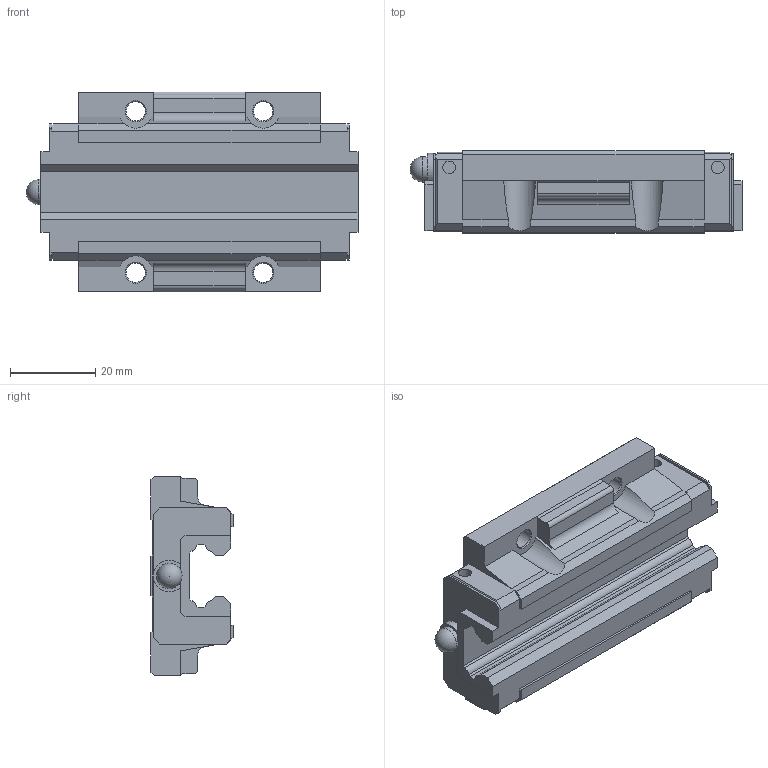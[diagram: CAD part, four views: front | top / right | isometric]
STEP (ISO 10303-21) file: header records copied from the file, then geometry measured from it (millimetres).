
FILE_DESCRIPTION(/* description */ ('STEP AP203'),/* implementation_level */ '2;1');
FILE_NAME(/* name */ 'HSR15LC1SS(GK) BLOCK(1PB1021B)',/* time_stamp */ '2024-05-21T04:58:32+02:00',/* author */ ('License CC BY-ND 4.0'),/* organization */ ('CADENAS'),/* preprocessor_version */ 'ST-DEVELOPER v19.3',/* originating_system */ 'PARTsolutions',/* authorisation */ ' ');
FILE_SCHEMA (('CONFIG_CONTROL_DESIGN'));
Length unit declared in the file: millimetre
Products named in the file (3): HSR15LC1SS(GK) BLOCK(1PB1021B); HSR15LCSSPB1021B11 S; hsr_ftht_PB1021B_grease_nipple_joint
Assembly tree (2 placements, depth 2):
  HSR15LC1SS(GK) BLOCK(1PB1021B)
    HSR15LCSSPB1021B11 S
    hsr_ftht_PB1021B_grease_nipple_joint
Bounding box: 78.1 x 19.3 x 47 mm (x, y, z)
Volume: 41216.4 mm3; surface area: 12683.9 mm2
Topology: 2 solids, 2 shells, 167 faces, 460 edges, 304 vertices
Faces by surface type: plane 129, cylinder 29, cone 8, sphere 1
Full cylindrical faces by diameter (mm): 3 x4, 4 x1, 4.5 x4, 5.1 x2, 6 x1, 7.5 x1
Entity records: 5155 total; most frequent: CARTESIAN_POINT 892, ORIENTED_EDGE 856, DIRECTION 842, EDGE_CURVE 428, LINE 354, VECTOR 354, VERTEX_POINT 294, AXIS2_PLACEMENT_3D 244
